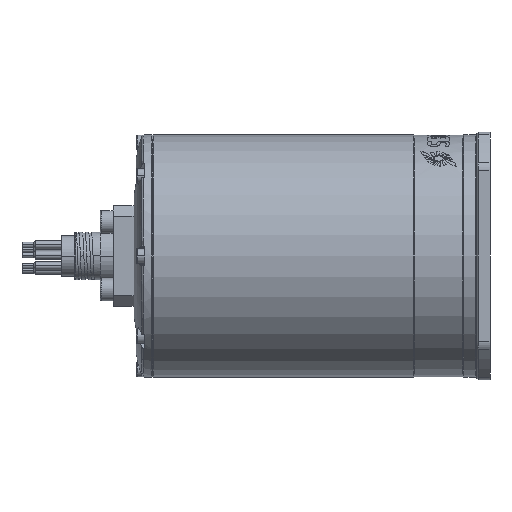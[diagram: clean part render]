
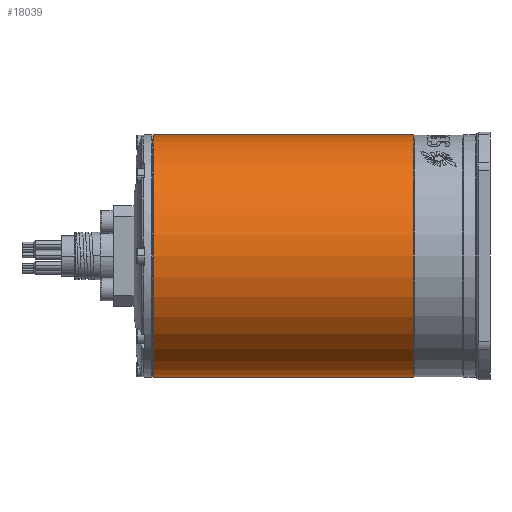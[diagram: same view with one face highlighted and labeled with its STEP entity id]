
A CAD part, left-side view. The second image highlights one B-rep face of the part: STEP entity #18039.
In plain terms, the highlighted cylindrical face has radius 46 mm (diameter 92 mm), a partial arc.
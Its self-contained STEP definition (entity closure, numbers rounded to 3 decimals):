
#192 = CARTESIAN_POINT ( 'NONE',  ( 0., 61.723, 46. ) ) ;
#2158 = DIRECTION ( 'NONE',  ( 0., 1., 0. ) ) ;
#2886 = DIRECTION ( 'NONE',  ( 0., 0., 1. ) ) ;
#2940 = EDGE_CURVE ( 'NONE', #4457, #10264, #33583, .T. ) ;
#3985 = DIRECTION ( 'NONE',  ( 0., 1., 0. ) ) ;
#4288 = VECTOR ( 'NONE', #3985, 1000. ) ;
#4457 = VERTEX_POINT ( 'NONE', #29543 ) ;
#4561 = LINE ( 'NONE', #192, #15221 ) ;
#5611 = CARTESIAN_POINT ( 'NONE',  ( 0., -0.2, 0. ) ) ;
#7402 = FACE_OUTER_BOUND ( 'NONE', #37466, .T. ) ;
#8630 = VERTEX_POINT ( 'NONE', #32238 ) ;
#8854 = DIRECTION ( 'NONE',  ( 0., -1., 0. ) ) ;
#9042 = ORIENTED_EDGE ( 'NONE', *, *, #16124, .F. ) ;
#10264 = VERTEX_POINT ( 'NONE', #34785 ) ;
#10534 = ORIENTED_EDGE ( 'NONE', *, *, #35075, .T. ) ;
#11002 = CARTESIAN_POINT ( 'NONE',  ( 0., -99., 0. ) ) ;
#11270 = CARTESIAN_POINT ( 'NONE',  ( 0., -0.2, -46. ) ) ;
#11458 = DIRECTION ( 'NONE',  ( 0., 1., 0. ) ) ;
#15221 = VECTOR ( 'NONE', #20573, 1000. ) ;
#16017 = CARTESIAN_POINT ( 'NONE',  ( 0., 61.723, -46. ) ) ;
#16124 = EDGE_CURVE ( 'NONE', #4457, #37472, #22791, .T. ) ;
#18039 = ADVANCED_FACE ( 'NONE', ( #7402 ), #29649, .T. ) ;
#18143 = AXIS2_PLACEMENT_3D ( 'NONE', #11002, #2158, #31746 ) ;
#20573 = DIRECTION ( 'NONE',  ( 0., 1., 0. ) ) ;
#21480 = AXIS2_PLACEMENT_3D ( 'NONE', #26601, #11458, #33271 ) ;
#22791 = LINE ( 'NONE', #16017, #4288 ) ;
#26601 = CARTESIAN_POINT ( 'NONE',  ( 0., 61.723, 0. ) ) ;
#28147 = CIRCLE ( 'NONE', #30896, 46. ) ;
#28518 = EDGE_CURVE ( 'NONE', #8630, #37472, #28147, .T. ) ;
#29543 = CARTESIAN_POINT ( 'NONE',  ( 0., -99., -46. ) ) ;
#29649 = CYLINDRICAL_SURFACE ( 'NONE', #21480, 46. ) ;
#30896 = AXIS2_PLACEMENT_3D ( 'NONE', #5611, #8854, #2886 ) ;
#31746 = DIRECTION ( 'NONE',  ( 0., 0., 1. ) ) ;
#32238 = CARTESIAN_POINT ( 'NONE',  ( 0., -0.2, 46. ) ) ;
#32845 = ORIENTED_EDGE ( 'NONE', *, *, #2940, .T. ) ;
#33271 = DIRECTION ( 'NONE',  ( 0., 0., 1. ) ) ;
#33583 = CIRCLE ( 'NONE', #18143, 46. ) ;
#34785 = CARTESIAN_POINT ( 'NONE',  ( 0., -99., 46. ) ) ;
#35075 = EDGE_CURVE ( 'NONE', #10264, #8630, #4561, .T. ) ;
#37466 = EDGE_LOOP ( 'NONE', ( #9042, #32845, #10534, #38078 ) ) ;
#37472 = VERTEX_POINT ( 'NONE', #11270 ) ;
#38078 = ORIENTED_EDGE ( 'NONE', *, *, #28518, .T. ) ;
